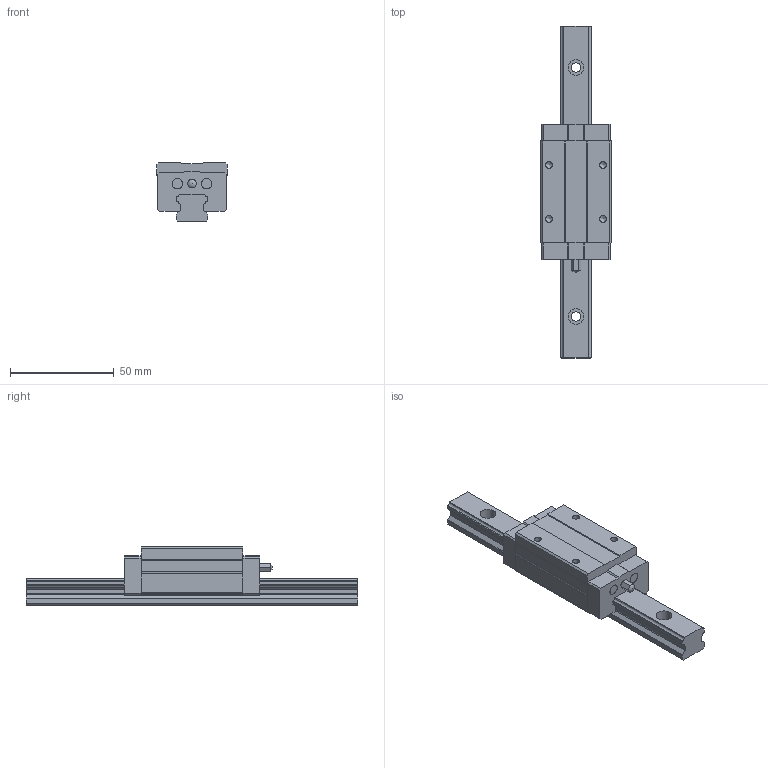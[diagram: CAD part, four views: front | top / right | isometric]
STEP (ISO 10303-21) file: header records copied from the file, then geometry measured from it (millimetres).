
FILE_DESCRIPTION( ( 'Unknown' ), '1' );
FILE_NAME( 'D:/inetpub/WonSTNew/WebParts/Download/H15RLUU1-160L20_20.step', 'Unknown', ( 'Unknown' ), ( 'Unknown' ), 'PSStep 15.0.49', 'Unknown', ' ' );
FILE_SCHEMA( ( 'AUTOMOTIVE_DESIGN { 1 0 10303 214 1 1 1 1 }' ) );
Length unit declared in the file: millimetre
Products named in the file (4): Assem1; H 15_RAIL; A-M4; H 15RL_BLOCK
Assembly tree (3 placements, depth 2):
  Assem1
    H 15_RAIL
    A-M4
    H 15RL_BLOCK
Bounding box: 34 x 160 x 28 mm (x, y, z)
Volume: 67665.5 mm3; surface area: 20315.4 mm2
Topology: 3 solids, 3 shells, 156 faces, 423 edges, 282 vertices
Faces by surface type: plane 86, cylinder 64, cone 5, sphere 1
Full cylindrical faces by diameter (mm): 3.242 x6, 4 x1, 4.5 x3, 5 x4, 7.5 x3
Entity records: 6089 total; most frequent: CARTESIAN_POINT 846, DIRECTION 833, ORIENTED_EDGE 780, EDGE_CURVE 390, AXIS2_PLACEMENT_3D 288, VERTEX_POINT 277, LINE 257, VECTOR 257
